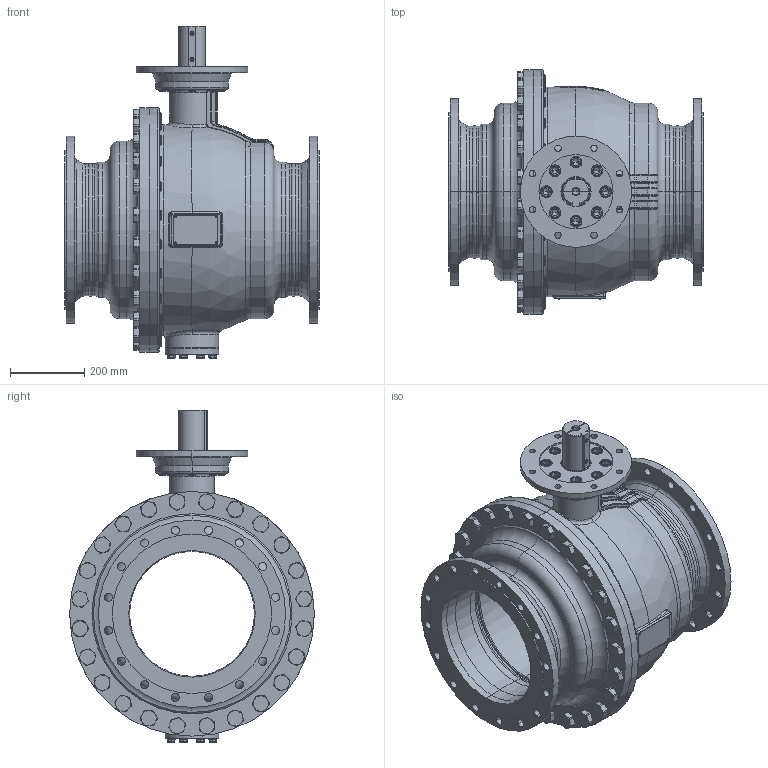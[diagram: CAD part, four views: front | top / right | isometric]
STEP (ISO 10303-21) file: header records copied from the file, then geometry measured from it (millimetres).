
FILE_DESCRIPTION((''),'2;1');
FILE_NAME('KHI-F_350_PN010-F25-P_SW0001','2026-02-05T15:28:40',('fischerkl'),('KLINGER'),'CREO PARAMETRIC BY PTC INC, 2023014','CREO PARAMETRIC BY PTC INC, 2023014','');
FILE_SCHEMA(('CONFIG_CONTROL_DESIGN'));
Products named in the file (1): KHI-F_350_PN010-F25-P_SW0001
Bounding box: 686 x 660 x 895.8 mm (x, y, z)
Volume: 41415567.5 mm3; surface area: 5800417.4 mm2
Topology: 1 solids, 4 shells, 3414 faces, 8622 edges, 5384 vertices
Faces by surface type: plane 1743, cylinder 799, cone 448, torus 295, bspline 99, sphere 30
Entity records: 144149 total; most frequent: CARTESIAN_POINT 62725, ORIENTED_EDGE 17192, DIRECTION 16862, EDGE_CURVE 8596, AXIS2_PLACEMENT_3D 6429, VERTEX_POINT 5384, VECTOR 4004, LINE 4004
